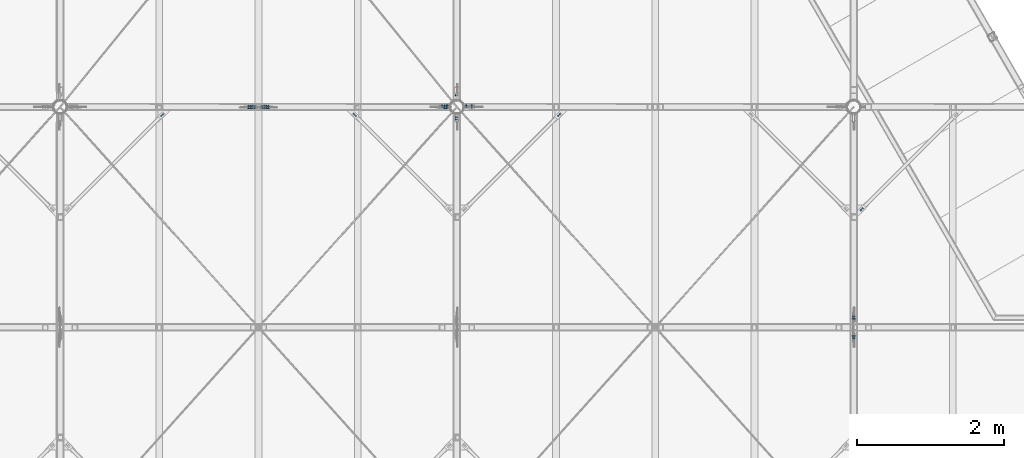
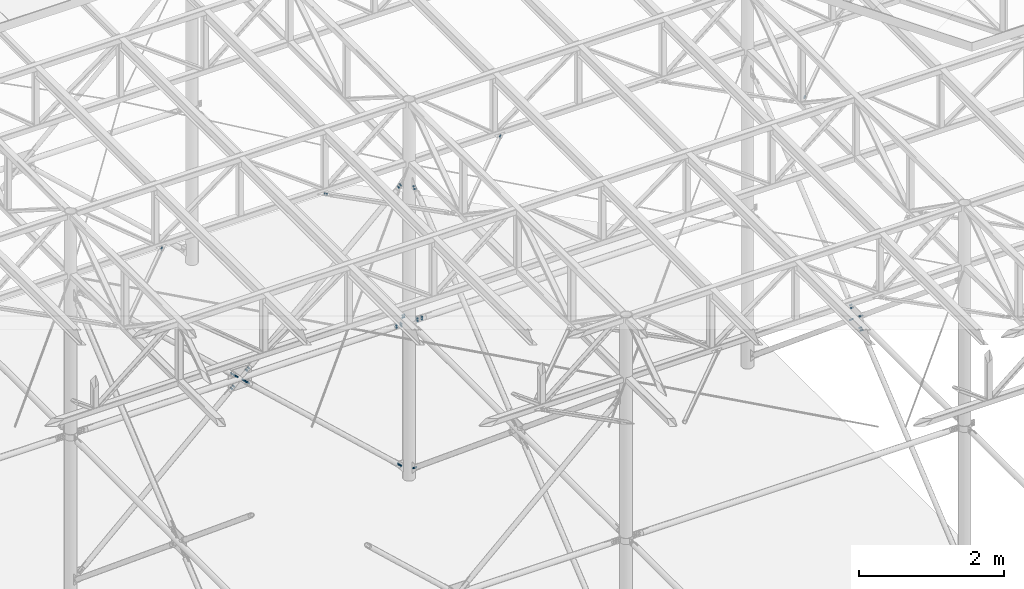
# One storey, part 123 of 132: 27 mechanical fasteners, 20 elements without a shape of their own.
"""IFC2X3 building model written with IfcOpenShell, lengths in millimetres."""

from ifc_helpers import new_model, si_unit, frame, origin_with_axes, origin_2d_with_axis, place, context, subcontext, project, spatial, polyline, circle, outline, extrude, source, transform, mapped, material, type_object, element, aggregate, save


model = new_model("IFC2X3")

# Units and contexts
model_context = context("Model", 3, precision=1e-05, world=origin_with_axes())
body_context = subcontext(model_context, "Body", "Model", "MODEL_VIEW")
ifc_project = project(units=[si_unit("LENGTHUNIT", "METRE", prefix="MILLI"), si_unit("AREAUNIT", "SQUARE_METRE"), si_unit("VOLUMEUNIT", "CUBIC_METRE"), si_unit("MASSUNIT", "GRAM", prefix="KILO"), si_unit("TIMEUNIT", "SECOND"), si_unit("PLANEANGLEUNIT", "RADIAN"), si_unit("SOLIDANGLEUNIT", "STERADIAN"), si_unit("THERMODYNAMICTEMPERATUREUNIT", "DEGREE_CELSIUS"), si_unit("LUMINOUSINTENSITYUNIT", "LUMEN")], contexts=[model_context])

# Site, building, storey
site_placement = place(None, origin_with_axes())
site = spatial("IfcSite", under=ifc_project, at=site_placement, Name="Budowa", CompositionType="ELEMENT")
building_placement = place(site_placement, origin_with_axes())
building = spatial("IfcBuilding", under=site, at=building_placement, Name="Undefined", CompositionType="ELEMENT")
storey_placement = place(building_placement, origin_with_axes())
storey = spatial("IfcBuildingStorey", under=building, at=storey_placement, Name="Undefined", CompositionType="ELEMENT", Elevation=0.0)

# Assembly, mechanical fastener
assembly_1_placement = place(storey_placement, origin_with_axes())
assembly_1 = element("IfcElementAssembly", 1, at=assembly_1_placement, inside=storey, Name="Steel Assembly", AssemblyPlace="NOTDEFINED", PredefinedType="RIGID_FRAME")
ifc_material = material(Name="Undefined")
discrete_accessory_type = type_object("IfcDiscreteAccessoryType", Name="Bolt assembly")
shared_shape_1 = source(origin_with_axes(), body_context, "Body", "SweptSolid", [
    extrude(circle(Radius=9.5, at=origin_2d_with_axis()), frame((0.0, -2.10099750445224, 0.0), z_axis=(0.0, 1.0, 0.0), x_axis=(1.0, 0.0, 0.0)), (0.0, 0.0, 1.0), 8.1),
    extrude(circle(Radius=9.5, at=origin_2d_with_axis()), frame((0.0, -9.9, 0.0), z_axis=(0.0, 1.0, 0.0), x_axis=(1.0, 0.0, 0.0)), (0.0, 0.0, 1.0), 8.0),
    extrude(outline(polyline([(13.85640646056, 0.0), (6.92820323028, 12.0000000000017), (-6.92820323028, 12.0000000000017), (-13.85640646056, 0.0), (-6.92820323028, -12.0000000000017), (6.92820323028, -12.0000000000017), (13.85640646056, 0.0)])), frame((0.0, -23.0, 0.0), z_axis=(0.0, 1.0, 0.0), x_axis=(1.0, 0.0, 0.0)), (0.0, 0.0, 1.0), 10.0),
    extrude(circle(Radius=8.0, at=origin_2d_with_axis()), frame((0.0, -13.0, 0.0), z_axis=(0.0, 1.0, 0.0), x_axis=(1.0, 0.0, 0.0)), (0.0, 0.0, 1.0), 45.0),
    extrude(circle(Radius=15.0, at=origin_2d_with_axis()), frame((0.0, -13.0, 0.0), z_axis=(0.0, 1.0, 0.0), x_axis=(1.0, 0.0, 0.0)), (0.0, 0.0, 1.0), 3.0),
    extrude(circle(Radius=15.0, at=origin_2d_with_axis()), frame((0.0, 5.99900249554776, 0.0), z_axis=(0.0, 1.0, 0.0), x_axis=(1.0, 0.0, 0.0)), (0.0, 0.0, 1.0), 3.0),
    extrude(outline(polyline([(13.85640646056, 0.0), (6.92820323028, 12.0000000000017), (-6.92820323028, 12.0000000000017), (-13.85640646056, 0.0), (-6.92820323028, -12.0000000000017), (6.92820323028, -12.0000000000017), (13.85640646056, 0.0)])), frame((0.0, 8.99900249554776, 0.0), z_axis=(0.0, 1.0, 0.0), x_axis=(1.0, 0.0, 0.0)), (0.0, 0.0, 1.0), 13.0),
])
mechanical_fastener_1_placement = place(assembly_1_placement, frame((14684.3261492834, 17997.9999976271, 12480.2077566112), z_axis=(0.67855182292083, 0.0, -0.734552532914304), x_axis=(-0.734552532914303, 0.0, -0.67855182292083)))
mechanical_fastener_1 = element("IfcMechanicalFastener", 2, at=mechanical_fastener_1_placement, type_object=discrete_accessory_type, material=ifc_material, Name="Bolt assembly", NominalDiameter=16.0, NominalLength=45.0, context=body_context, shape_type="MappedRepresentation", body=[
    mapped(shared_shape_1, transform((0.0, 0.0, 0.0))),
    mapped(shared_shape_1, transform((40.0000000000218, 0.0, -1.81898940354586e-12))),
])

assembly_2_placement = place(storey_placement, origin_with_axes())
assembly_2 = element("IfcElementAssembly", 3, at=assembly_2_placement, inside=storey, Name="Steel Assembly", AssemblyPlace="NOTDEFINED", PredefinedType="RIGID_FRAME")
mechanical_fastener_2_placement = place(assembly_2_placement, frame((14684.3261497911, 17997.9999973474, 7751.7929987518), z_axis=(-0.67855182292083, 0.0, -0.734552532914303), x_axis=(-0.734552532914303, 0.0, 0.67855182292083)))
mechanical_fastener_2 = element("IfcMechanicalFastener", 4, at=mechanical_fastener_2_placement, type_object=discrete_accessory_type, material=ifc_material, Name="Bolt assembly", NominalDiameter=16.0, NominalLength=45.0, context=body_context, shape_type="MappedRepresentation", body=[
    mapped(shared_shape_1, transform((0.0, 0.0, 0.0))),
    mapped(shared_shape_1, transform((40.0000000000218, 0.0, -1.81898940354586e-12))),
])

assembly_3_placement = place(storey_placement, origin_with_axes())
assembly_3 = element("IfcElementAssembly", 5, at=assembly_3_placement, inside=storey, Name="Steel Assembly", AssemblyPlace="NOTDEFINED", PredefinedType="RIGID_FRAME")
shared_shape_2 = source(origin_with_axes(), body_context, "Body", "SweptSolid", [
    extrude(circle(Radius=9.5, at=origin_2d_with_axis()), frame((0.0, -2.1, 0.0), z_axis=(0.0, 1.0, 0.0), x_axis=(1.0, 0.0, 0.0)), (0.0, 0.0, 1.0), 8.1),
    extrude(circle(Radius=9.5, at=origin_2d_with_axis()), frame((0.0, -11.9, 0.0), z_axis=(0.0, 1.0, 0.0), x_axis=(1.0, 0.0, 0.0)), (0.0, 0.0, 1.0), 8.0),
    extrude(outline(polyline([(13.85640646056, 0.0), (6.92820323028, 12.0000000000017), (-6.92820323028, 12.0000000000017), (-13.85640646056, 0.0), (-6.92820323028, -12.0000000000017), (6.92820323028, -12.0000000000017), (13.85640646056, 0.0)])), frame((0.0, -25.0, 0.0), z_axis=(0.0, 1.0, 0.0), x_axis=(1.0, 0.0, 0.0)), (0.0, 0.0, 1.0), 10.0),
    extrude(circle(Radius=8.0, at=origin_2d_with_axis()), frame((0.0, -15.0, 0.0), z_axis=(0.0, 1.0, 0.0), x_axis=(1.0, 0.0, 0.0)), (0.0, 0.0, 1.0), 45.0),
    extrude(circle(Radius=15.0, at=origin_2d_with_axis()), frame((0.0, -15.0, 0.0), z_axis=(0.0, 1.0, 0.0), x_axis=(1.0, 0.0, 0.0)), (0.0, 0.0, 1.0), 3.0),
    extrude(circle(Radius=15.0, at=origin_2d_with_axis()), frame((0.0, 6.0, 0.0), z_axis=(0.0, 1.0, 0.0), x_axis=(1.0, 0.0, 0.0)), (0.0, 0.0, 1.0), 3.0),
    extrude(outline(polyline([(13.85640646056, 0.0), (6.92820323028, 12.0000000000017), (-6.92820323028, 12.0000000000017), (-13.85640646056, 0.0), (-6.92820323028, -12.0000000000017), (6.92820323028, -12.0000000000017), (13.85640646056, 0.0)])), frame((0.0, 9.0, 0.0), z_axis=(0.0, 1.0, 0.0), x_axis=(1.0, 0.0, 0.0)), (0.0, 0.0, 1.0), 13.0),
])
mechanical_fastener_3_placement = place(assembly_3_placement, frame((14684.3261492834, 17997.9999976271, 12480.2077566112), z_axis=(0.67855182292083, 0.0, -0.734552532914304), x_axis=(-0.734552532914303, 0.0, -0.67855182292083)))
mechanical_fastener_3 = element("IfcMechanicalFastener", 6, at=mechanical_fastener_3_placement, type_object=discrete_accessory_type, material=ifc_material, Name="Bolt assembly", NominalDiameter=16.0, NominalLength=45.0, context=body_context, shape_type="MappedRepresentation", body=[
    mapped(shared_shape_2, transform((0.0, 0.0, 0.0))),
    mapped(shared_shape_2, transform((40.0000000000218, 0.0, -1.81898940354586e-12))),
])

assembly_4_placement = place(storey_placement, origin_with_axes())
assembly_4 = element("IfcElementAssembly", 7, at=assembly_4_placement, inside=storey, Name="Steel Assembly", AssemblyPlace="NOTDEFINED", PredefinedType="RIGID_FRAME")
mechanical_fastener_4_placement = place(assembly_4_placement, frame((14684.3261497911, 17997.9999973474, 7751.7929987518), z_axis=(-0.67855182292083, 0.0, -0.734552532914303), x_axis=(-0.734552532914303, 0.0, 0.67855182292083)))
mechanical_fastener_4 = element("IfcMechanicalFastener", 8, at=mechanical_fastener_4_placement, type_object=discrete_accessory_type, material=ifc_material, Name="Bolt assembly", NominalDiameter=16.0, NominalLength=45.0, context=body_context, shape_type="MappedRepresentation", body=[
    mapped(shared_shape_2, transform((0.0, 0.0, 0.0))),
    mapped(shared_shape_2, transform((40.0000000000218, 0.0, -1.81898940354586e-12))),
])

assembly_5_placement = place(storey_placement, origin_with_axes())
assembly_5 = element("IfcElementAssembly", 9, at=assembly_5_placement, inside=storey, Name="Steel Assembly", AssemblyPlace="NOTDEFINED", PredefinedType="RIGID_FRAME")
shared_shape_3 = source(origin_with_axes(), body_context, "Body", "SweptSolid", [
    extrude(circle(Radius=9.5, at=origin_2d_with_axis()), frame((0.0, -4.09999999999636, 0.0), z_axis=(0.0, 1.0, 0.0), x_axis=(1.0, 0.0, 0.0)), (0.0, 0.0, 1.0), 8.1),
    extrude(circle(Radius=9.5, at=origin_2d_with_axis()), frame((0.0, -11.9, 0.0), z_axis=(0.0, 1.0, 0.0), x_axis=(1.0, 0.0, 0.0)), (0.0, 0.0, 1.0), 8.0),
    extrude(outline(polyline([(13.85640646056, 0.0), (6.92820323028, 12.0000000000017), (-6.92820323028, 12.0000000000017), (-13.85640646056, 0.0), (-6.92820323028, -12.0000000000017), (6.92820323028, -12.0000000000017), (13.85640646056, 0.0)])), frame((0.0, -25.0, 0.0), z_axis=(0.0, 1.0, 0.0), x_axis=(1.0, 0.0, 0.0)), (0.0, 0.0, 1.0), 10.0),
    extrude(circle(Radius=8.0, at=origin_2d_with_axis()), frame((0.0, -15.0, 0.0), z_axis=(0.0, 1.0, 0.0), x_axis=(1.0, 0.0, 0.0)), (0.0, 0.0, 1.0), 40.0),
    extrude(circle(Radius=15.0, at=origin_2d_with_axis()), frame((0.0, -15.0, 0.0), z_axis=(0.0, 1.0, 0.0), x_axis=(1.0, 0.0, 0.0)), (0.0, 0.0, 1.0), 3.0),
    extrude(circle(Radius=15.0, at=origin_2d_with_axis()), frame((0.0, 4.0, 0.0), z_axis=(0.0, 1.0, 0.0), x_axis=(1.0, 0.0, 0.0)), (0.0, 0.0, 1.0), 3.0),
    extrude(outline(polyline([(13.85640646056, 0.0), (6.92820323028, 12.0000000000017), (-6.92820323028, 12.0000000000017), (-13.85640646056, 0.0), (-6.92820323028, -12.0000000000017), (6.92820323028, -12.0000000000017), (13.85640646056, 0.0)])), frame((0.0, 7.0, 0.0), z_axis=(0.0, 1.0, 0.0), x_axis=(1.0, 0.0, 0.0)), (0.0, 0.0, 1.0), 13.0),
])
mechanical_fastener_5_placement = place(assembly_5_placement, frame((12018.9139021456, 17997.999997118, 10018.0008231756), z_axis=(0.67855182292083, 0.0, -0.734552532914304), x_axis=(-0.734552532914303, 0.0, -0.67855182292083)))
mechanical_fastener_5 = element("IfcMechanicalFastener", 10, at=mechanical_fastener_5_placement, type_object=discrete_accessory_type, material=ifc_material, Name="Bolt assembly", NominalDiameter=16.0, NominalLength=40.0, context=body_context, shape_type="MappedRepresentation", body=[
    mapped(shared_shape_3, transform((0.0, 0.0, 0.0))),
    mapped(shared_shape_3, transform((40.0000000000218, 0.0, -1.81898940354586e-12))),
])
aggregate(assembly_5, [mechanical_fastener_5])

# Mechanical fastener
mechanical_fastener_6_placement = place(assembly_4_placement, frame((12231.0887636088, 17997.999997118, 10018.0008271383), z_axis=(0.678551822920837, 0.0, 0.734552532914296), x_axis=(0.734552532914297, 0.0, -0.678551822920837)))
mechanical_fastener_6 = element("IfcMechanicalFastener", 11, at=mechanical_fastener_6_placement, type_object=discrete_accessory_type, material=ifc_material, Name="Bolt assembly", NominalDiameter=16.0, NominalLength=40.0, context=body_context, shape_type="MappedRepresentation", body=[
    mapped(shared_shape_3, transform((0.0, 0.0, 0.0))),
    mapped(shared_shape_3, transform((40.0000000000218, 0.0, -1.81898940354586e-12))),
])

aggregate(assembly_4, [mechanical_fastener_4, mechanical_fastener_6])

# Assembly, mechanical fastener
assembly_6_placement = place(storey_placement, origin_with_axes())
assembly_6 = element("IfcElementAssembly", 12, at=assembly_6_placement, inside=storey, Name="Steel Assembly", AssemblyPlace="NOTDEFINED", PredefinedType="RIGID_FRAME")
mechanical_fastener_7_placement = place(assembly_6_placement, frame((12018.913903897, 17997.9999968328, 10213.9999310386), z_axis=(-0.67855182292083, 0.0, -0.734552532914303), x_axis=(-0.734552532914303, 0.0, 0.67855182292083)))
mechanical_fastener_7 = element("IfcMechanicalFastener", 13, at=mechanical_fastener_7_placement, type_object=discrete_accessory_type, material=ifc_material, Name="Bolt assembly", NominalDiameter=16.0, NominalLength=40.0, context=body_context, shape_type="MappedRepresentation", body=[
    mapped(shared_shape_3, transform((0.0, 0.0, 0.0))),
    mapped(shared_shape_3, transform((40.0000000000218, 0.0, -1.81898940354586e-12))),
])
aggregate(assembly_6, [mechanical_fastener_7])

# Mechanical fastener
mechanical_fastener_8_placement = place(assembly_3_placement, frame((12231.0887653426, 17997.9999968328, 10213.9999302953), z_axis=(-0.678551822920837, 0.0, 0.734552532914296), x_axis=(0.734552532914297, 0.0, 0.678551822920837)))
mechanical_fastener_8 = element("IfcMechanicalFastener", 14, at=mechanical_fastener_8_placement, type_object=discrete_accessory_type, material=ifc_material, Name="Bolt assembly", NominalDiameter=16.0, NominalLength=40.0, context=body_context, shape_type="MappedRepresentation", body=[
    mapped(shared_shape_3, transform((0.0, 0.0, 0.0))),
    mapped(shared_shape_3, transform((40.0000000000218, 0.0, -1.81898940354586e-12))),
])

aggregate(assembly_3, [mechanical_fastener_3, mechanical_fastener_8])

# Assembly, mechanical fastener
assembly_7_placement = place(storey_placement, origin_with_axes())
assembly_7 = element("IfcElementAssembly", 15, at=assembly_7_placement, inside=storey, Name="Steel Assembly", AssemblyPlace="NOTDEFINED", PredefinedType="RIGID_FRAME")
mechanical_fastener_9_placement = place(assembly_7_placement, frame((20224.9999992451, 14882.4407058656, 10018.2969084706), z_axis=(0.0, 0.639165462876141, -0.769069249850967), x_axis=(0.0, -0.769069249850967, -0.639165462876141)))
mechanical_fastener_9 = element("IfcMechanicalFastener", 16, at=mechanical_fastener_9_placement, type_object=discrete_accessory_type, material=ifc_material, Name="Bolt assembly", NominalDiameter=16.0, NominalLength=40.0, context=body_context, shape_type="MappedRepresentation", body=[
    mapped(shared_shape_3, transform((0.0, 0.0, 0.0))),
    mapped(shared_shape_3, transform((40.0000000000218, 0.0, -1.81898940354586e-12))),
])
aggregate(assembly_7, [mechanical_fastener_9])

assembly_8_placement = place(storey_placement, origin_with_axes())
assembly_8 = element("IfcElementAssembly", 17, at=assembly_8_placement, inside=storey, Name="Steel Assembly", AssemblyPlace="NOTDEFINED", PredefinedType="RIGID_FRAME")
mechanical_fastener_10_placement = place(assembly_8_placement, frame((20224.9999992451, 15117.5614381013, 10018.2969140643), z_axis=(0.0, 0.639165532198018, 0.76906919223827), x_axis=(0.0, 0.769069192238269, -0.639165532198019)))
mechanical_fastener_10 = element("IfcMechanicalFastener", 18, at=mechanical_fastener_10_placement, type_object=discrete_accessory_type, material=ifc_material, Name="Bolt assembly", NominalDiameter=16.0, NominalLength=40.0, context=body_context, shape_type="MappedRepresentation", body=[
    mapped(shared_shape_3, transform((0.0, 0.0, 0.0))),
    mapped(shared_shape_3, transform((40.0000000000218, 0.0, -1.81898940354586e-12))),
])
aggregate(assembly_8, [mechanical_fastener_10])

assembly_9_placement = place(storey_placement, origin_with_axes())
assembly_9 = element("IfcElementAssembly", 19, at=assembly_9_placement, inside=storey, Name="Steel Assembly", AssemblyPlace="NOTDEFINED", PredefinedType="RIGID_FRAME")
mechanical_fastener_11_placement = place(assembly_9_placement, frame((20224.9999994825, 15117.5620899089, 10213.7038472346), z_axis=(0.0, -0.639165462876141, 0.769069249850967), x_axis=(0.0, 0.769069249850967, 0.639165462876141)))
mechanical_fastener_11 = element("IfcMechanicalFastener", 20, at=mechanical_fastener_11_placement, type_object=discrete_accessory_type, material=ifc_material, Name="Bolt assembly", NominalDiameter=16.0, NominalLength=40.0, context=body_context, shape_type="MappedRepresentation", body=[
    mapped(shared_shape_3, transform((0.0, 0.0, 0.0))),
    mapped(shared_shape_3, transform((40.0000000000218, 0.0, -1.81898940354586e-12))),
])
aggregate(assembly_9, [mechanical_fastener_11])

assembly_10_placement = place(storey_placement, origin_with_axes())
assembly_10 = element("IfcElementAssembly", 21, at=assembly_10_placement, inside=storey, Name="Steel Assembly", AssemblyPlace="NOTDEFINED", PredefinedType="RIGID_FRAME")
mechanical_fastener_12_placement = place(assembly_10_placement, frame((20224.9999994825, 14882.4401083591, 10213.7038442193), z_axis=(0.0, -0.63916553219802, -0.769069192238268), x_axis=(0.0, -0.76906919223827, 0.639165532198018)))
mechanical_fastener_12 = element("IfcMechanicalFastener", 22, at=mechanical_fastener_12_placement, type_object=discrete_accessory_type, material=ifc_material, Name="Bolt assembly", NominalDiameter=16.0, NominalLength=40.0, context=body_context, shape_type="MappedRepresentation", body=[
    mapped(shared_shape_3, transform((0.0, 0.0, 0.0))),
    mapped(shared_shape_3, transform((40.0000000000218, 0.0, -1.81898940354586e-12))),
])
aggregate(assembly_10, [mechanical_fastener_12])

assembly_11_placement = place(storey_placement, origin_with_axes())
assembly_11 = element("IfcElementAssembly", 23, at=assembly_11_placement, inside=storey, Name="Steel Assembly", AssemblyPlace="NOTDEFINED", PredefinedType="RIGID_FRAME")
shared_shape_4 = source(origin_with_axes(), body_context, "Body", "SweptSolid", [
    extrude(circle(Radius=9.0, at=origin_2d_with_axis()), frame((0.0, 0.0999999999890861, 0.0), z_axis=(0.0, 1.0, 0.0), x_axis=(1.0, 0.0, 0.0)), (0.0, 0.0, 1.0), 8.0),
    extrude(circle(Radius=9.0, at=origin_2d_with_axis()), frame((0.0, 11.9000000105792, 0.0), z_axis=(0.0, 1.0, 0.0), x_axis=(1.0, 0.0, 0.0)), (0.0, 0.0, 1.0), 8.1),
    extrude(outline(polyline([(13.85640646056, 0.0), (6.92820323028, 12.0000000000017), (-6.92820323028, 12.0000000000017), (-13.85640646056, 0.0), (-6.92820323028, -12.0000000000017), (6.92820323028, -12.0000000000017), (13.85640646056, 0.0)])), frame((0.0, -13.0, 0.0), z_axis=(0.0, 1.0, 0.0), x_axis=(1.0, 0.0, 0.0)), (0.0, 0.0, 1.0), 10.0),
    extrude(circle(Radius=8.0, at=origin_2d_with_axis()), frame((0.0, -2.99999999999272, 0.0), z_axis=(0.0, 1.0, 0.0), x_axis=(1.0, 0.0, 0.0)), (0.0, 0.0, 1.0), 45.0),
    extrude(circle(Radius=15.0, at=origin_2d_with_axis()), frame((0.0, -2.99999999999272, 0.0), z_axis=(0.0, 1.0, 0.0), x_axis=(1.0, 0.0, 0.0)), (0.0, 0.0, 1.0), 3.0),
    extrude(circle(Radius=15.0, at=origin_2d_with_axis()), frame((0.0, 20.0000000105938, 0.0), z_axis=(0.0, 1.0, 0.0), x_axis=(1.0, 0.0, 0.0)), (0.0, 0.0, 1.0), 3.0),
    extrude(outline(polyline([(13.85640646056, 0.0), (6.92820323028, 12.0000000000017), (-6.92820323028, 12.0000000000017), (-13.85640646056, 0.0), (-6.92820323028, -12.0000000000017), (6.92820323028, -12.0000000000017), (13.85640646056, 0.0)])), frame((0.0, 23.0000000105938, 0.0), z_axis=(0.0, 1.0, 0.0), x_axis=(1.0, 0.0, 0.0)), (0.0, 0.0, 1.0), 13.0),
])
mechanical_fastener_13_placement = place(assembly_11_placement, frame((14953.1367126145, 17990.000000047, 10096.0003779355), z_axis=(-1.0, 0.0, 0.0), x_axis=(0.0, 0.0, 1.0)))
mechanical_fastener_13 = element("IfcMechanicalFastener", 24, at=mechanical_fastener_13_placement, type_object=discrete_accessory_type, material=ifc_material, Name="Bolt assembly", NominalDiameter=16.0, NominalLength=45.0, context=body_context, shape_type="MappedRepresentation", body=[
    mapped(shared_shape_4, transform((0.0, 0.0, 0.0))),
    mapped(shared_shape_4, transform((40.0000000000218, 0.0, -1.81898940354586e-12))),
])

assembly_12_placement = place(storey_placement, origin_with_axes())
assembly_12 = element("IfcElementAssembly", 25, at=assembly_12_placement, inside=storey, Name="Steel Assembly", AssemblyPlace="NOTDEFINED", PredefinedType="RIGID_FRAME")
shared_shape_5 = source(origin_with_axes(), body_context, "Body", "SweptSolid", [
    extrude(circle(Radius=9.0, at=origin_2d_with_axis()), frame((0.0, -4.09999999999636, 0.0), z_axis=(0.0, 1.0, 0.0), x_axis=(1.0, 0.0, 0.0)), (0.0, 0.0, 1.0), 8.1),
    extrude(circle(Radius=9.0, at=origin_2d_with_axis()), frame((0.0, -11.9, 0.0), z_axis=(0.0, 1.0, 0.0), x_axis=(1.0, 0.0, 0.0)), (0.0, 0.0, 1.0), 8.0),
    extrude(outline(polyline([(13.85640646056, 0.0), (6.92820323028, 12.0000000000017), (-6.92820323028, 12.0000000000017), (-13.85640646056, 0.0), (-6.92820323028, -12.0000000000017), (6.92820323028, -12.0000000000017), (13.85640646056, 0.0)])), frame((0.0, -25.0, 0.0), z_axis=(0.0, 1.0, 0.0), x_axis=(1.0, 0.0, 0.0)), (0.0, 0.0, 1.0), 10.0),
    extrude(circle(Radius=8.0, at=origin_2d_with_axis()), frame((0.0, -15.0, 0.0), z_axis=(0.0, 1.0, 0.0), x_axis=(1.0, 0.0, 0.0)), (0.0, 0.0, 1.0), 40.0),
    extrude(circle(Radius=15.0, at=origin_2d_with_axis()), frame((0.0, -15.0, 0.0), z_axis=(0.0, 1.0, 0.0), x_axis=(1.0, 0.0, 0.0)), (0.0, 0.0, 1.0), 3.0),
    extrude(circle(Radius=15.0, at=origin_2d_with_axis()), frame((0.0, 4.0, 0.0), z_axis=(0.0, 1.0, 0.0), x_axis=(1.0, 0.0, 0.0)), (0.0, 0.0, 1.0), 3.0),
    extrude(outline(polyline([(13.85640646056, 0.0), (6.92820323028, 12.0000000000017), (-6.92820323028, 12.0000000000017), (-13.85640646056, 0.0), (-6.92820323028, -12.0000000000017), (6.92820323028, -12.0000000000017), (13.85640646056, 0.0)])), frame((0.0, 7.0, 0.0), z_axis=(0.0, 1.0, 0.0), x_axis=(1.0, 0.0, 0.0)), (0.0, 0.0, 1.0), 13.0),
])
mechanical_fastener_14_placement = place(assembly_12_placement, frame((14824.9999969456, 18157.9079054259, 10116.0003779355), z_axis=(0.0, 0.0, 1.0), x_axis=(0.0, 1.0, 0.0)))
mechanical_fastener_14 = element("IfcMechanicalFastener", 26, at=mechanical_fastener_14_placement, type_object=discrete_accessory_type, material=ifc_material, Name="Bolt assembly", NominalDiameter=16.0, NominalLength=40.0, context=body_context, shape_type="MappedRepresentation", body=[
    mapped(shared_shape_5, transform((0.0, 0.0, -20.0))),
    mapped(shared_shape_5, transform((0.0, 0.0, 20.0))),
])
aggregate(assembly_12, [mechanical_fastener_14])

assembly_13_placement = place(storey_placement, origin_with_axes())
assembly_13 = element("IfcElementAssembly", 27, at=assembly_13_placement, inside=storey, Name="Steel Assembly", AssemblyPlace="NOTDEFINED", PredefinedType="RIGID_FRAME")
mechanical_fastener_15_placement = place(assembly_13_placement, frame((14825.0000000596, 17859.8220601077, 7739.23218545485), z_axis=(0.0, -0.63916553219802, -0.769069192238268), x_axis=(0.0, -0.76906919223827, 0.639165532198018)))
mechanical_fastener_15 = element("IfcMechanicalFastener", 28, at=mechanical_fastener_15_placement, type_object=discrete_accessory_type, material=ifc_material, Name="Bolt assembly", NominalDiameter=16.0, NominalLength=40.0, context=body_context, shape_type="MappedRepresentation", body=[
    mapped(shared_shape_5, transform((0.0, 0.0, 0.0))),
    mapped(shared_shape_5, transform((40.0000000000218, 0.0, -1.81898940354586e-12))),
])
aggregate(assembly_13, [mechanical_fastener_15])

assembly_14_placement = place(storey_placement, origin_with_axes())
assembly_14 = element("IfcElementAssembly", 29, at=assembly_14_placement, inside=storey, Name="Steel Assembly", AssemblyPlace="NOTDEFINED", PredefinedType="RIGID_FRAME")
mechanical_fastener_16_placement = place(assembly_14_placement, frame((14825.0000000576, 17859.822059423, 12492.7676156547), z_axis=(0.0, 0.639165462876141, -0.769069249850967), x_axis=(0.0, -0.769069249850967, -0.639165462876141)))
mechanical_fastener_16 = element("IfcMechanicalFastener", 30, at=mechanical_fastener_16_placement, type_object=discrete_accessory_type, material=ifc_material, Name="Bolt assembly", NominalDiameter=16.0, NominalLength=40.0, context=body_context, shape_type="MappedRepresentation", body=[
    mapped(shared_shape_5, transform((0.0, 0.0, 0.0))),
    mapped(shared_shape_5, transform((40.0000000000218, 0.0, -1.81898940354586e-12))),
])
aggregate(assembly_14, [mechanical_fastener_16])

# Mechanical fastener
mechanical_fastener_17_placement = place(assembly_2_placement, frame((14684.3261497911, 17999.9999973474, 7751.79299875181), z_axis=(-0.67855182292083, 0.0, -0.734552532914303), x_axis=(-0.734552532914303, 0.0, 0.67855182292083)))
mechanical_fastener_17 = element("IfcMechanicalFastener", 31, at=mechanical_fastener_17_placement, type_object=discrete_accessory_type, material=ifc_material, Name="Bolt assembly", NominalDiameter=16.0, NominalLength=40.0, context=body_context, shape_type="MappedRepresentation", body=[
    mapped(shared_shape_5, transform((0.0, 0.0, 0.0))),
    mapped(shared_shape_5, transform((40.0000000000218, 0.0, -1.81898940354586e-12))),
])

mechanical_fastener_18_placement = place(assembly_1_placement, frame((14684.3261492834, 17999.9999976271, 12480.2077566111), z_axis=(0.67855182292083, 0.0, -0.734552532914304), x_axis=(-0.734552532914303, 0.0, -0.67855182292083)))
mechanical_fastener_18 = element("IfcMechanicalFastener", 32, at=mechanical_fastener_18_placement, type_object=discrete_accessory_type, material=ifc_material, Name="Bolt assembly", NominalDiameter=16.0, NominalLength=40.0, context=body_context, shape_type="MappedRepresentation", body=[
    mapped(shared_shape_5, transform((0.0, 0.0, 0.0))),
    mapped(shared_shape_5, transform((40.0000000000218, 0.0, -1.81898940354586e-12))),
])

aggregate(assembly_1, [mechanical_fastener_1, mechanical_fastener_18])

mechanical_fastener_19_placement = place(assembly_2_placement, frame((12174.3756759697, 17999.9999977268, 10070.3902305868), z_axis=(0.678551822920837, 0.0, 0.734552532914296), x_axis=(0.734552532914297, 0.0, -0.678551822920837)))
mechanical_fastener_19 = element("IfcMechanicalFastener", 33, at=mechanical_fastener_19_placement, type_object=discrete_accessory_type, material=ifc_material, Name="Bolt assembly", NominalDiameter=16.0, NominalLength=40.0, context=body_context, shape_type="MappedRepresentation", body=[
    mapped(shared_shape_5, transform((0.0, 0.0, 0.0))),
    mapped(shared_shape_5, transform((40.0000000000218, 0.0, -1.81898940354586e-12))),
])

aggregate(assembly_2, [mechanical_fastener_2, mechanical_fastener_17, mechanical_fastener_19])

# Assembly, mechanical fastener
assembly_15_placement = place(storey_placement, origin_with_axes())
assembly_15 = element("IfcElementAssembly", 34, at=assembly_15_placement, inside=storey, Name="Steel Assembly", AssemblyPlace="NOTDEFINED", PredefinedType="RIGID_FRAME")
mechanical_fastener_20_placement = place(assembly_15_placement, frame((12075.6269936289, 17999.9999975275, 10161.6105256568), z_axis=(-0.67855182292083, 0.0, -0.734552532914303), x_axis=(-0.734552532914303, 0.0, 0.67855182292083)))
mechanical_fastener_20 = element("IfcMechanicalFastener", 35, at=mechanical_fastener_20_placement, type_object=discrete_accessory_type, material=ifc_material, Name="Bolt assembly", NominalDiameter=16.0, NominalLength=40.0, context=body_context, shape_type="MappedRepresentation", body=[
    mapped(shared_shape_5, transform((0.0, 0.0, 0.0))),
    mapped(shared_shape_5, transform((40.0000000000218, 0.0, -1.81898940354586e-12))),
])
aggregate(assembly_15, [mechanical_fastener_20])

# Mechanical fastener
shared_shape_6 = source(origin_with_axes(), body_context, "Body", "SweptSolid", [
    extrude(circle(Radius=9.0, at=origin_2d_with_axis()), frame((0.0, 0.0999999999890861, 0.0), z_axis=(0.0, 1.0, 0.0), x_axis=(1.0, 0.0, 0.0)), (0.0, 0.0, 1.0), 8.0),
    extrude(circle(Radius=9.0, at=origin_2d_with_axis()), frame((0.0, 7.9000007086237, 0.0), z_axis=(0.0, 1.0, 0.0), x_axis=(1.0, 0.0, 0.0)), (0.0, 0.0, 1.0), 8.1),
    extrude(outline(polyline([(13.85640646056, 0.0), (6.92820323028, 12.0000000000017), (-6.92820323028, 12.0000000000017), (-13.85640646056, 0.0), (-6.92820323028, -12.0000000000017), (6.92820323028, -12.0000000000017), (13.85640646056, 0.0)])), frame((0.0, -13.0, 0.0), z_axis=(0.0, 1.0, 0.0), x_axis=(1.0, 0.0, 0.0)), (0.0, 0.0, 1.0), 10.0),
    extrude(circle(Radius=8.0, at=origin_2d_with_axis()), frame((0.0, -2.99999999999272, 0.0), z_axis=(0.0, 1.0, 0.0), x_axis=(1.0, 0.0, 0.0)), (0.0, 0.0, 1.0), 40.0),
    extrude(circle(Radius=15.0, at=origin_2d_with_axis()), frame((0.0, -2.99999999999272, 0.0), z_axis=(0.0, 1.0, 0.0), x_axis=(1.0, 0.0, 0.0)), (0.0, 0.0, 1.0), 3.0),
    extrude(circle(Radius=15.0, at=origin_2d_with_axis()), frame((0.0, 16.0000007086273, 0.0), z_axis=(0.0, 1.0, 0.0), x_axis=(1.0, 0.0, 0.0)), (0.0, 0.0, 1.0), 3.0),
    extrude(outline(polyline([(13.85640646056, 0.0), (6.92820323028, 12.0000000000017), (-6.92820323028, 12.0000000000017), (-13.85640646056, 0.0), (-6.92820323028, -12.0000000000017), (6.92820323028, -12.0000000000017), (13.85640646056, 0.0)])), frame((0.0, 19.0000007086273, 0.0), z_axis=(0.0, 1.0, 0.0), x_axis=(1.0, 0.0, 0.0)), (0.0, 0.0, 1.0), 13.0),
])
mechanical_fastener_21_placement = place(assembly_11_placement, frame((15028.1366941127, 17993.9999994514, 10096.0003779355), z_axis=(-1.0, 0.0, 0.0), x_axis=(0.0, 0.0, 1.0)))
mechanical_fastener_21 = element("IfcMechanicalFastener", 36, at=mechanical_fastener_21_placement, type_object=discrete_accessory_type, material=ifc_material, Name="Bolt assembly", NominalDiameter=16.0, NominalLength=40.0, context=body_context, shape_type="MappedRepresentation", body=[
    mapped(shared_shape_6, transform((0.0, 0.0, 0.0))),
    mapped(shared_shape_6, transform((40.0000000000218, 0.0, -1.81898940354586e-12))),
])

mechanical_fastener_22_placement = place(assembly_11_placement, frame((14621.863305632, 17993.9999994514, 10096.0003779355), z_axis=(-1.0, 0.0, 0.0), x_axis=(0.0, 0.0, 1.0)))
mechanical_fastener_22 = element("IfcMechanicalFastener", 37, at=mechanical_fastener_22_placement, type_object=discrete_accessory_type, material=ifc_material, Name="Bolt assembly", NominalDiameter=16.0, NominalLength=40.0, context=body_context, shape_type="MappedRepresentation", body=[
    mapped(shared_shape_6, transform((0.0, 0.0, 0.0))),
    mapped(shared_shape_6, transform((40.0000000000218, 0.0, -1.81898940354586e-12))),
])

aggregate(assembly_11, [mechanical_fastener_21, mechanical_fastener_22, mechanical_fastener_13])

# Assembly, mechanical fastener
assembly_16_placement = place(storey_placement, origin_with_axes())
assembly_16 = element("IfcElementAssembly", 38, at=assembly_16_placement, inside=storey, Name="Steel Assembly", AssemblyPlace="NOTDEFINED", PredefinedType="RIGID_FRAME")
shared_shape_7 = source(origin_with_axes(), body_context, "Body", "SweptSolid", [
    extrude(circle(Radius=9.0, at=origin_2d_with_axis()), frame((0.0, 11.9000000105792, 0.0), z_axis=(0.0, 1.0, 0.0), x_axis=(1.0, 0.0, 0.0)), (0.0, 0.0, 1.0), 8.1),
    extrude(circle(Radius=9.0, at=origin_2d_with_axis()), frame((0.0, 0.0999999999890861, 0.0), z_axis=(0.0, 1.0, 0.0), x_axis=(1.0, 0.0, 0.0)), (0.0, 0.0, 1.0), 8.0),
    extrude(outline(polyline([(13.85640646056, 0.0), (6.92820323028, 12.0000000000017), (-6.92820323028, 12.0000000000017), (-13.85640646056, 0.0), (-6.92820323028, -12.0000000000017), (6.92820323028, -12.0000000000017), (13.85640646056, 0.0)])), frame((0.0, -13.0, 0.0), z_axis=(0.0, 1.0, 0.0), x_axis=(1.0, 0.0, 0.0)), (0.0, 0.0, 1.0), 10.0),
    extrude(circle(Radius=8.0, at=origin_2d_with_axis()), frame((0.0, -2.99999999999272, 0.0), z_axis=(0.0, 1.0, 0.0), x_axis=(1.0, 0.0, 0.0)), (0.0, 0.0, 1.0), 45.0),
    extrude(circle(Radius=15.0, at=origin_2d_with_axis()), frame((0.0, -2.99999999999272, 0.0), z_axis=(0.0, 1.0, 0.0), x_axis=(1.0, 0.0, 0.0)), (0.0, 0.0, 1.0), 3.0),
    extrude(circle(Radius=15.0, at=origin_2d_with_axis()), frame((0.0, 20.0000000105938, 0.0), z_axis=(0.0, 1.0, 0.0), x_axis=(1.0, 0.0, 0.0)), (0.0, 0.0, 1.0), 3.0),
    extrude(outline(polyline([(13.85640646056, 0.0), (6.92820323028, 12.0000000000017), (-6.92820323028, 12.0000000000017), (-13.85640646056, 0.0), (-6.92820323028, -12.0000000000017), (6.92820323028, -12.0000000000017), (13.85640646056, 0.0)])), frame((0.0, 23.0000000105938, 0.0), z_axis=(0.0, 1.0, 0.0), x_axis=(1.0, 0.0, 0.0)), (0.0, 0.0, 1.0), 13.0),
])
mechanical_fastener_23_placement = place(assembly_16_placement, frame((14696.863305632, 17989.9999999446, 10096.0003779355), z_axis=(-1.0, 0.0, 0.0), x_axis=(0.0, 0.0, 1.0)))
mechanical_fastener_23 = element("IfcMechanicalFastener", 39, at=mechanical_fastener_23_placement, type_object=discrete_accessory_type, material=ifc_material, Name="Bolt assembly", NominalDiameter=16.0, NominalLength=45.0, context=body_context, shape_type="MappedRepresentation", body=[
    mapped(shared_shape_7, transform((0.0, 0.0, 0.0))),
    mapped(shared_shape_7, transform((40.0000000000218, 0.0, -1.81898940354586e-12))),
])
aggregate(assembly_16, [mechanical_fastener_23])

assembly_17_placement = place(storey_placement, origin_with_axes())
assembly_17 = element("IfcElementAssembly", 40, at=assembly_17_placement, inside=storey, Name="Steel Assembly", AssemblyPlace="NOTDEFINED", PredefinedType="RIGID_FRAME")
shared_shape_8 = source(origin_with_axes(), body_context, "Body", "SweptSolid", [
    extrude(circle(Radius=6.5, at=origin_2d_with_axis()), frame((0.0, -3.1, 0.0), z_axis=(0.0, 1.0, 0.0), x_axis=(1.0, 0.0, 0.0)), (0.0, 0.0, 1.0), 6.1),
    extrude(circle(Radius=6.5, at=origin_2d_with_axis()), frame((0.0, -8.9, 0.0), z_axis=(0.0, 1.0, 0.0), x_axis=(1.0, 0.0, 0.0)), (0.0, 0.0, 1.0), 6.0),
    extrude(outline(polyline([(10.39230484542, 0.0), (5.19615242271, 9.00000000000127), (-5.19615242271, 9.00000000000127), (-10.39230484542, 0.0), (-5.19615242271, -9.00000000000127), (5.19615242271, -9.00000000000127), (10.39230484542, 0.0)])), frame((0.0, -19.5, 0.0), z_axis=(0.0, 1.0, 0.0), x_axis=(1.0, 0.0, 0.0)), (0.0, 0.0, 1.0), 7.5),
    extrude(circle(Radius=6.0, at=origin_2d_with_axis()), frame((0.0, -12.0, 0.0), z_axis=(0.0, 1.0, 0.0), x_axis=(1.0, 0.0, 0.0)), (0.0, 0.0, 1.0), 35.0),
    extrude(circle(Radius=12.0, at=origin_2d_with_axis()), frame((0.0, -12.0, 0.0), z_axis=(0.0, 1.0, 0.0), x_axis=(1.0, 0.0, 0.0)), (0.0, 0.0, 1.0), 3.0),
    extrude(circle(Radius=12.0, at=origin_2d_with_axis()), frame((0.0, 3.0, 0.0), z_axis=(0.0, 1.0, 0.0), x_axis=(1.0, 0.0, 0.0)), (0.0, 0.0, 1.0), 3.0),
    extrude(outline(polyline([(10.96965511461, 0.0), (5.484827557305, 9.50000000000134), (-5.484827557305, 9.50000000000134), (-10.96965511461, 0.0), (-5.484827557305, -9.50000000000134), (5.484827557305, -9.50000000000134), (10.96965511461, 0.0)])), frame((0.0, 6.0, 0.0), z_axis=(0.0, 1.0, 0.0), x_axis=(1.0, 0.0, 0.0)), (0.0, 0.0, 1.0), 10.0),
])
mechanical_fastener_24_placement = place(assembly_17_placement, frame((10825.6446590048, 17900.6446591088, 12824.0), z_axis=(0.707106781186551, -0.707106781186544, 0.0), x_axis=(-0.70710678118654, -0.707106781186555, 0.0)))
mechanical_fastener_24 = element("IfcMechanicalFastener", 41, at=mechanical_fastener_24_placement, type_object=discrete_accessory_type, material=ifc_material, Name="Bolt assembly", NominalDiameter=12.0, NominalLength=35.0, context=body_context, shape_type="MappedRepresentation", body=[
    mapped(shared_shape_8, transform((0.0, 0.0, 0.0))),
    mapped(shared_shape_8, transform((29.9999999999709, 0.0, -1.16415321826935e-10))),
])
aggregate(assembly_17, [mechanical_fastener_24])

assembly_18_placement = place(storey_placement, origin_with_axes())
assembly_18 = element("IfcElementAssembly", 42, at=assembly_18_placement, inside=storey, Name="Steel Assembly", AssemblyPlace="NOTDEFINED", PredefinedType="RIGID_FRAME")
mechanical_fastener_25_placement = place(assembly_18_placement, frame((20324.3553409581, 16599.3553410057, 12824.0), z_axis=(-0.707106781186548, 0.707106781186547, 0.0), x_axis=(0.707106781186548, 0.707106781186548, 0.0)))
mechanical_fastener_25 = element("IfcMechanicalFastener", 43, at=mechanical_fastener_25_placement, type_object=discrete_accessory_type, material=ifc_material, Name="Bolt assembly", NominalDiameter=12.0, NominalLength=35.0, context=body_context, shape_type="MappedRepresentation", body=[
    mapped(shared_shape_8, transform((0.0, 0.0, 0.0))),
    mapped(shared_shape_8, transform((29.9999999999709, 0.0, -1.16415321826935e-10))),
])
aggregate(assembly_18, [mechanical_fastener_25])

assembly_19_placement = place(storey_placement, origin_with_axes())
assembly_19 = element("IfcElementAssembly", 44, at=assembly_19_placement, inside=storey, Name="Steel Assembly", AssemblyPlace="NOTDEFINED", PredefinedType="RIGID_FRAME")
mechanical_fastener_26_placement = place(assembly_19_placement, frame((16225.644659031, 17900.6446591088, 12824.0), z_axis=(0.707106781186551, -0.707106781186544, 0.0), x_axis=(-0.70710678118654, -0.707106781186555, 0.0)))
mechanical_fastener_26 = element("IfcMechanicalFastener", 45, at=mechanical_fastener_26_placement, type_object=discrete_accessory_type, material=ifc_material, Name="Bolt assembly", NominalDiameter=12.0, NominalLength=35.0, context=body_context, shape_type="MappedRepresentation", body=[
    mapped(shared_shape_8, transform((0.0, 0.0, 0.0))),
    mapped(shared_shape_8, transform((29.9999999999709, 0.0, -1.16415321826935e-10))),
])
aggregate(assembly_19, [mechanical_fastener_26])

assembly_20_placement = place(storey_placement, origin_with_axes())
assembly_20 = element("IfcElementAssembly", 46, at=assembly_20_placement, inside=storey, Name="Steel Assembly", AssemblyPlace="NOTDEFINED", PredefinedType="RIGID_FRAME")
mechanical_fastener_27_placement = place(assembly_20_placement, frame((13424.3553409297, 17900.6446590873, 12824.0), z_axis=(0.707106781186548, 0.707106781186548, 0.0), x_axis=(0.707106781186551, -0.707106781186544, 0.0)))
mechanical_fastener_27 = element("IfcMechanicalFastener", 47, at=mechanical_fastener_27_placement, type_object=discrete_accessory_type, material=ifc_material, Name="Bolt assembly", NominalDiameter=12.0, NominalLength=35.0, context=body_context, shape_type="MappedRepresentation", body=[
    mapped(shared_shape_8, transform((0.0, 0.0, 0.0))),
    mapped(shared_shape_8, transform((29.9999999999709, 0.0, -1.16415321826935e-10))),
])
aggregate(assembly_20, [mechanical_fastener_27])

save(model, "model.ifc")
